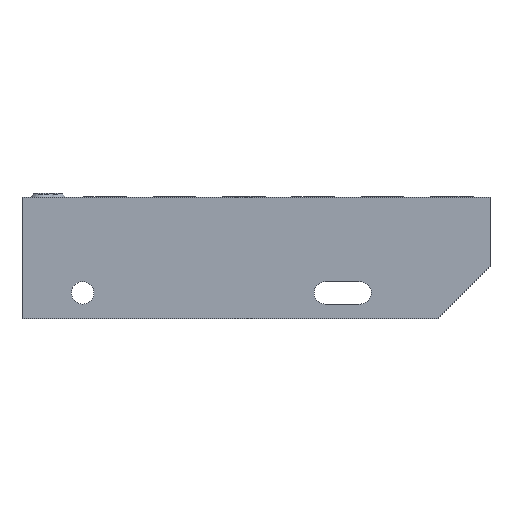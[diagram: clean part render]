
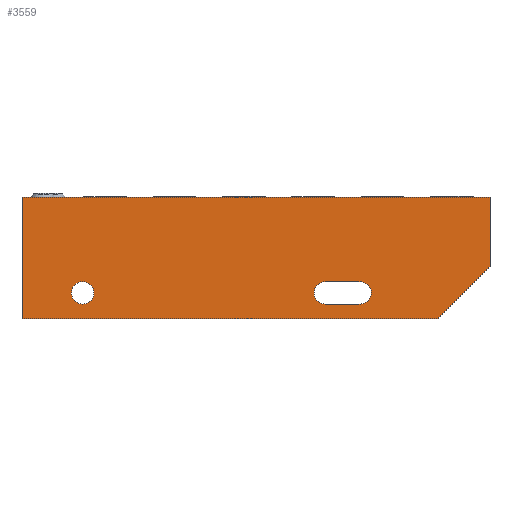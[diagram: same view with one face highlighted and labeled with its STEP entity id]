
A CAD part, front view. The second image highlights one B-rep face of the part: STEP entity #3559.
In plain terms, the highlighted planar face has unit normal (0, -1, 0) as drawn and (0, 0, 1) by its records, which use the part's own axes.
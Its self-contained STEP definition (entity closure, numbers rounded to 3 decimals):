
#299=CIRCLE('',#3856,6.5);
#301=CIRCLE('',#3860,6.5);
#302=CIRCLE('',#3862,6.5);
#545=ORIENTED_EDGE('',*,*,#1412,.F.);
#546=ORIENTED_EDGE('',*,*,#1402,.F.);
#547=ORIENTED_EDGE('',*,*,#1406,.F.);
#548=ORIENTED_EDGE('',*,*,#1409,.F.);
#549=ORIENTED_EDGE('',*,*,#1411,.F.);
#550=ORIENTED_EDGE('',*,*,#1389,.T.);
#551=ORIENTED_EDGE('',*,*,#1393,.T.);
#552=ORIENTED_EDGE('',*,*,#1396,.T.);
#553=ORIENTED_EDGE('',*,*,#1399,.T.);
#554=ORIENTED_EDGE('',*,*,#1415,.T.);
#1389=EDGE_CURVE('',#1830,#1829,#2156,.T.);
#1393=EDGE_CURVE('',#1829,#1832,#2160,.T.);
#1396=EDGE_CURVE('',#1832,#1834,#2163,.T.);
#1399=EDGE_CURVE('',#1834,#1836,#2166,.T.);
#1402=EDGE_CURVE('',#1839,#1840,#2169,.T.);
#1406=EDGE_CURVE('',#1842,#1839,#299,.T.);
#1409=EDGE_CURVE('',#1844,#1842,#2174,.T.);
#1411=EDGE_CURVE('',#1840,#1844,#301,.T.);
#1412=EDGE_CURVE('',#1845,#1845,#302,.T.);
#1415=EDGE_CURVE('',#1836,#1830,#2176,.T.);
#1829=VERTEX_POINT('',#5313);
#1830=VERTEX_POINT('',#5315);
#1832=VERTEX_POINT('',#5321);
#1834=VERTEX_POINT('',#5327);
#1836=VERTEX_POINT('',#5333);
#1839=VERTEX_POINT('',#5340);
#1840=VERTEX_POINT('',#5342);
#1842=VERTEX_POINT('',#5348);
#1844=VERTEX_POINT('',#5354);
#1845=VERTEX_POINT('',#5361);
#2156=LINE('',#5314,#2403);
#2160=LINE('',#5322,#2407);
#2163=LINE('',#5328,#2410);
#2166=LINE('',#5334,#2413);
#2169=LINE('',#5341,#2416);
#2174=LINE('',#5355,#2421);
#2176=LINE('',#5366,#2423);
#2403=VECTOR('',#4258,1000.);
#2407=VECTOR('',#4264,1000.);
#2410=VECTOR('',#4269,1000.);
#2413=VECTOR('',#4274,1000.);
#2416=VECTOR('',#4279,1000.);
#2421=VECTOR('',#4292,1000.);
#2423=VECTOR('',#4308,1000.);
#2659=EDGE_LOOP('',(#545));
#2660=EDGE_LOOP('',(#546,#547,#548,#549));
#2661=EDGE_LOOP('',(#550,#551,#552,#553,#554));
#3084=FACE_BOUND('',#2659,.T.);
#3085=FACE_BOUND('',#2660,.T.);
#3086=FACE_BOUND('',#2661,.T.);
#3505=PLANE('',#3865);
#3559=ADVANCED_FACE('',(#3084,#3085,#3086),#3505,.T.);
#3856=AXIS2_PLACEMENT_3D('',#5349,#4286,#4287);
#3860=AXIS2_PLACEMENT_3D('',#5358,#4297,#4298);
#3862=AXIS2_PLACEMENT_3D('',#5360,#4301,#4302);
#3865=AXIS2_PLACEMENT_3D('',#5367,#4309,#4310);
#4258=DIRECTION('',(-1.,0.,0.));
#4264=DIRECTION('',(0.,-1.,0.));
#4269=DIRECTION('',(1.,0.,0.));
#4274=DIRECTION('',(0.707,0.707,0.));
#4279=DIRECTION('',(-1.,0.,0.));
#4286=DIRECTION('',(0.,0.,1.));
#4287=DIRECTION('',(1.,0.,0.));
#4292=DIRECTION('',(1.,0.,0.));
#4297=DIRECTION('',(0.,0.,1.));
#4298=DIRECTION('',(1.,0.,0.));
#4301=DIRECTION('',(0.,0.,1.));
#4302=DIRECTION('',(1.,0.,0.));
#4308=DIRECTION('',(0.,1.,0.));
#4309=DIRECTION('',(0.,0.,1.));
#4310=DIRECTION('',(1.,0.,0.));
#5313=CARTESIAN_POINT('',(0.,0.,3.));
#5314=CARTESIAN_POINT('',(270.,0.,3.));
#5315=CARTESIAN_POINT('',(270.,0.,3.));
#5321=CARTESIAN_POINT('',(0.,-70.,3.));
#5322=CARTESIAN_POINT('',(0.,0.,3.));
#5327=CARTESIAN_POINT('',(240.,-70.,3.));
#5328=CARTESIAN_POINT('',(0.,-70.,3.));
#5333=CARTESIAN_POINT('',(270.,-40.,3.));
#5334=CARTESIAN_POINT('',(240.,-70.,3.));
#5340=CARTESIAN_POINT('',(195.,-48.5,3.));
#5341=CARTESIAN_POINT('',(195.,-48.5,3.));
#5342=CARTESIAN_POINT('',(175.,-48.5,3.));
#5348=CARTESIAN_POINT('',(195.,-61.5,3.));
#5349=CARTESIAN_POINT('',(195.,-55.,3.));
#5354=CARTESIAN_POINT('',(175.,-61.5,3.));
#5355=CARTESIAN_POINT('',(175.,-61.5,3.));
#5358=CARTESIAN_POINT('',(175.,-55.,3.));
#5360=CARTESIAN_POINT('',(35.,-55.,3.));
#5361=CARTESIAN_POINT('',(41.5,-55.,3.));
#5366=CARTESIAN_POINT('',(270.,-40.,3.));
#5367=CARTESIAN_POINT('',(0.,0.,3.));
